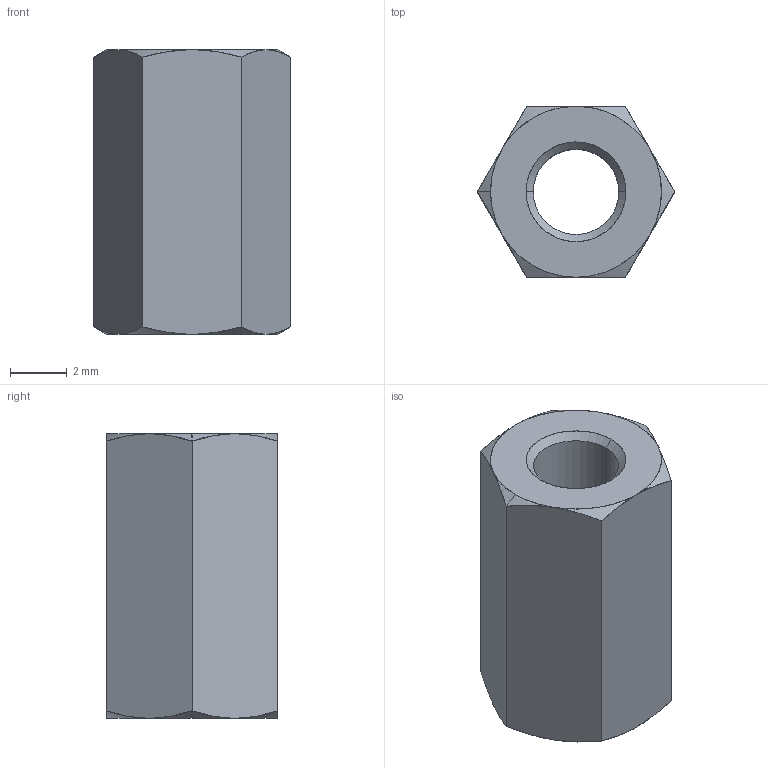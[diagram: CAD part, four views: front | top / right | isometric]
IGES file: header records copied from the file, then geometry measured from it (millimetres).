
Start section: SolidWorks IGES file using analytic representation for surfaces
Global section: file name: C:\Users\ianosborn\Desktop\N0503.NP_v2\N0503.NP_v2_20250227_IGES\N0503.030-010-NP.igs; native system: SolidWorks 2019; preprocessor: SolidWorks 2019; author: IanOsborn; date: 250227.144052; units: millimetre
Bounding box: 6.93 x 6 x 10 mm (x, y, z)
Surface area: 344.8 mm2 (no closed solid volume)
Topology: 0 solids, 0 shells, 28 faces, 286 edges, 286 vertices
Faces by surface type: revolution 20, bspline 8
